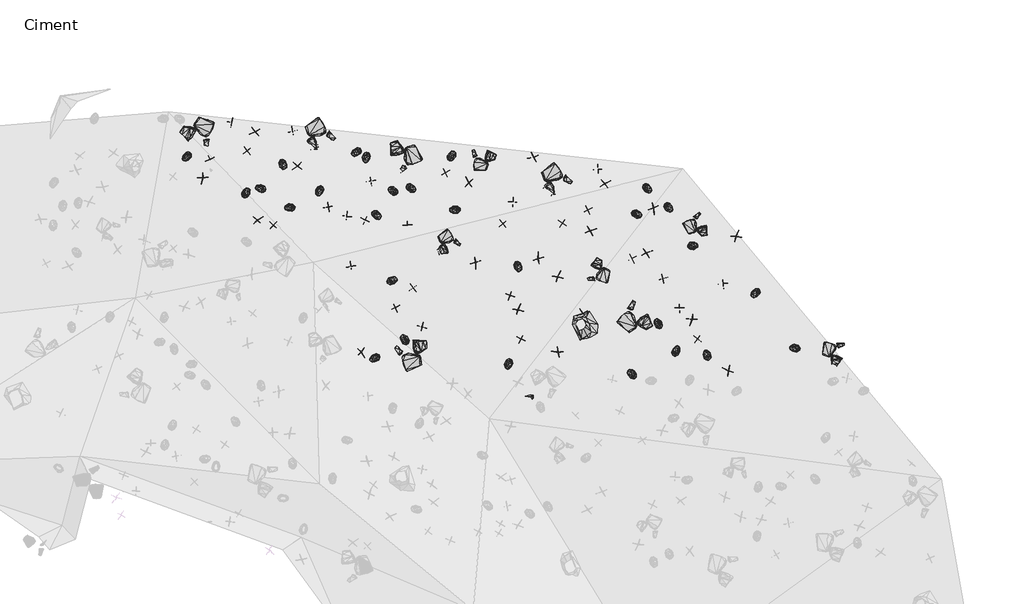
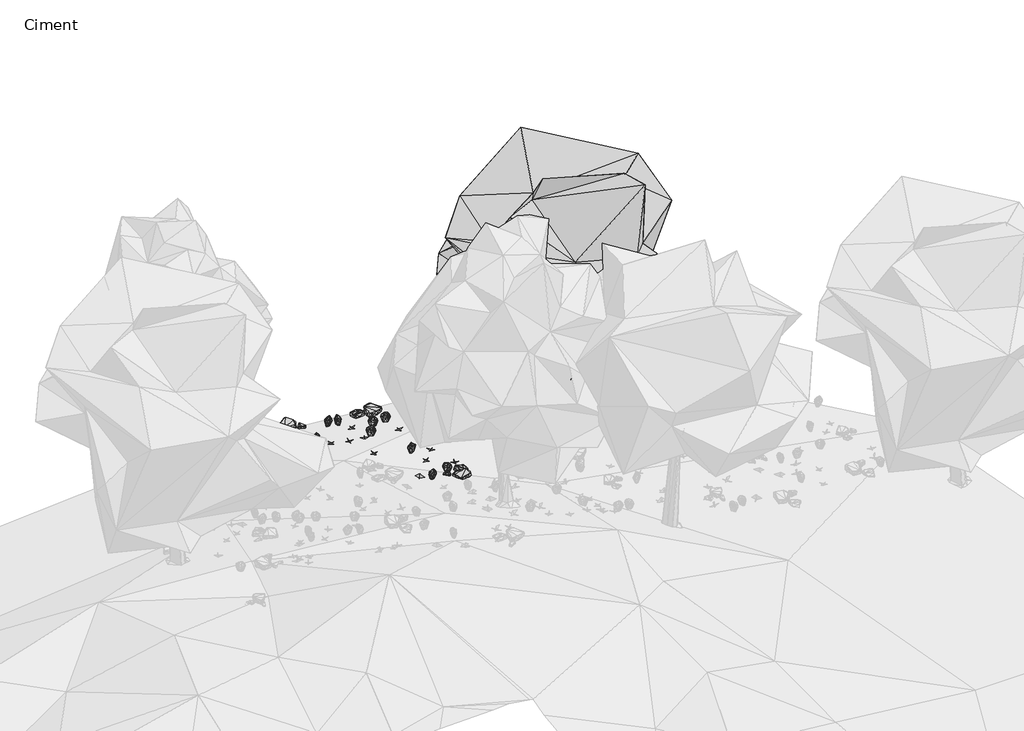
# One storey, part 30 of 30: 87 geographic elements.
"""IFC4 building model written with IfcOpenShell, lengths in millimetres."""

from ifc_helpers import new_model, si_unit, origin, place, context, project, spatial, transform, mapped, element, save
from components import enscape_assetdefinition_bush_025_fern_enscape_5718bf32, enscape_assetdefinition_bush_054_plant_09_version_2_enscape_7b546a12, enscape_assetdefinition_bush_062_plant_09_version_3_enscape_ccf8c8eb, enscape_assetdefinition_deciduous_tree_029_elm_enscape_e4c49baf, enscape_assetdefinition_stone_013_group_enscape_516da325, enscape_assetdefinition_stone_013_group_enscape_db9b3e91

model = new_model("IFC4")

# Units and contexts
model_context = context("Model", 3, world=origin())
ifc_project = project(units=[si_unit("LENGTHUNIT", "METRE", prefix="MILLI")], contexts=[model_context])

# Site, building, storey
site = spatial("IfcSite", under=ifc_project)
building = spatial("IfcBuilding", under=site)
storey = spatial("IfcBuildingStorey", under=building, Name="Ciment", Elevation=-1500.0)

# Geographic elements
placement = place(None, origin())
enscape_assetdefinition_bush_025_fern_enscape_shape = enscape_assetdefinition_bush_025_fern_enscape_5718bf32(model_context)
element("IfcGeographicElement", 1, ObjectType="Enscape AssetDefinition - Bush 025 Fern : Enscape AssetDefinition - Bush 025 Fern", at=placement, inside=storey, context=model_context, shape_type="MappedRepresentation", body=[
    mapped(enscape_assetdefinition_bush_025_fern_enscape_shape, transform((13392.3625946, 18474.9679565, -2123.7223148), x_axis=(0.8792148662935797, 0.4764254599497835, 0.0), y_axis=(-0.4764254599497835, 0.8792148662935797, 0.0), z_axis=(0.0, 0.0, 1.0))),
])
element("IfcGeographicElement", 2, ObjectType="Enscape AssetDefinition - Bush 025 Fern : Enscape AssetDefinition - Bush 025 Fern", at=placement, inside=storey, context=model_context, shape_type="MappedRepresentation", body=[
    mapped(enscape_assetdefinition_bush_025_fern_enscape_shape, transform((20630.4950714, 16685.1425171, -2606.4195633), x_axis=(0.27919322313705, 0.9602349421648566, 0.0), y_axis=(-0.9602349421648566, 0.27919322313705, 0.0), z_axis=(0.0, 0.0, 1.0))),
])
element("IfcGeographicElement", 3, ObjectType="Enscape AssetDefinition - Bush 025 Fern : Enscape AssetDefinition - Bush 025 Fern", at=placement, inside=storey, context=model_context, shape_type="MappedRepresentation", body=[
    mapped(enscape_assetdefinition_bush_025_fern_enscape_shape, transform((19497.045517, 16099.4663239, -2448.1201172), x_axis=(-0.8001108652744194, 0.5998521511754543, 0.0), y_axis=(-0.5998521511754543, -0.8001108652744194, 0.0), z_axis=(0.0, 0.0, 1.0))),
])
element("IfcGeographicElement", 4, ObjectType="Enscape AssetDefinition - Bush 025 Fern : Enscape AssetDefinition - Bush 025 Fern", at=placement, inside=storey, context=model_context, shape_type="MappedRepresentation", body=[
    mapped(enscape_assetdefinition_bush_025_fern_enscape_shape, transform((20167.7799225, 17383.6898804, -2618.180275), x_axis=(-0.6018318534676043, 0.7986228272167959, 0.0), y_axis=(-0.7986228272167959, -0.6018318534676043, 0.0), z_axis=(0.0, 0.0, 1.0))),
])
element("IfcGeographicElement", 5, ObjectType="Enscape AssetDefinition - Bush 025 Fern : Enscape AssetDefinition - Bush 025 Fern", at=placement, inside=storey, context=model_context, shape_type="MappedRepresentation", body=[
    mapped(enscape_assetdefinition_bush_025_fern_enscape_shape, transform((10766.79039, 20341.3772583, -2388.8020515), x_axis=(-0.9917992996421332, -0.12780512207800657, 0.0), y_axis=(0.12780512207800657, -0.9917992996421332, 0.0), z_axis=(0.0, 0.0, 1.0))),
])
element("IfcGeographicElement", 6, ObjectType="Enscape AssetDefinition - Bush 025 Fern : Enscape AssetDefinition - Bush 025 Fern", at=placement, inside=storey, context=model_context, shape_type="MappedRepresentation", body=[
    mapped(enscape_assetdefinition_bush_025_fern_enscape_shape, transform((10596.7617035, 21427.4692535, -2699.9249458), x_axis=(0.5076293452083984, -0.8615755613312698, 0.0), y_axis=(0.8615755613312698, 0.5076293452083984, 0.0), z_axis=(0.0, 0.0, 1.0))),
])
element("IfcGeographicElement", 7, ObjectType="Enscape AssetDefinition - Bush 025 Fern : Enscape AssetDefinition - Bush 025 Fern", at=placement, inside=storey, context=model_context, shape_type="MappedRepresentation", body=[
    mapped(enscape_assetdefinition_bush_025_fern_enscape_shape, transform((16592.0467377, 18825.5672455, -2420.6457138), x_axis=(0.5107015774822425, -0.859758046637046, 0.0), y_axis=(0.859758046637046, 0.5107015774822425, 0.0), z_axis=(0.0, 0.0, 1.0))),
])
element("IfcGeographicElement", 8, ObjectType="Enscape AssetDefinition - Bush 025 Fern : Enscape AssetDefinition - Bush 025 Fern", at=placement, inside=storey, context=model_context, shape_type="MappedRepresentation", body=[
    mapped(enscape_assetdefinition_bush_025_fern_enscape_shape, transform((23649.7020721, 16754.2572021, -2906.6262245), x_axis=(-0.9999071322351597, 0.013628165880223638, 0.0), y_axis=(-0.013628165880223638, -0.9999071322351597, 0.0), z_axis=(0.0, 0.0, 1.0))),
])
element("IfcGeographicElement", 9, ObjectType="Enscape AssetDefinition - Bush 025 Fern : Enscape AssetDefinition - Bush 025 Fern", at=placement, inside=storey, context=model_context, shape_type="MappedRepresentation", body=[
    mapped(enscape_assetdefinition_bush_025_fern_enscape_shape, transform((14909.1863632, 21660.0494385, -2907.4184895), x_axis=(0.3970330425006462, 0.9178043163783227, 0.0), y_axis=(-0.9178043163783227, 0.3970330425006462, 0.0), z_axis=(0.0, 0.0, 1.0))),
])
element("IfcGeographicElement", 10, ObjectType="Enscape AssetDefinition - Bush 025 Fern : Enscape AssetDefinition - Bush 025 Fern", at=placement, inside=storey, context=model_context, shape_type="MappedRepresentation", body=[
    mapped(enscape_assetdefinition_bush_025_fern_enscape_shape, transform((12934.2327118, 16496.7880249, -1712.9496336), x_axis=(-0.8035142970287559, -0.5952854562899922, 0.0), y_axis=(0.5952854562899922, -0.8035142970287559, 0.0), z_axis=(0.0, 0.0, 1.0))),
])
element("IfcGeographicElement", 11, ObjectType="Enscape AssetDefinition - Bush 025 Fern : Enscape AssetDefinition - Bush 025 Fern", at=placement, inside=storey, context=model_context, shape_type="MappedRepresentation", body=[
    mapped(enscape_assetdefinition_bush_025_fern_enscape_shape, transform((12463.4838104, 21746.9806671, -2853.53899), x_axis=(-0.7232601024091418, -0.6905757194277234, 0.0), y_axis=(0.6905757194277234, -0.7232601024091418, 0.0), z_axis=(0.0, 0.0, 1.0))),
])
element("IfcGeographicElement", 12, ObjectType="Enscape AssetDefinition - Bush 025 Fern : Enscape AssetDefinition - Bush 025 Fern", at=placement, inside=storey, context=model_context, shape_type="MappedRepresentation", body=[
    mapped(enscape_assetdefinition_bush_025_fern_enscape_shape, transform((21417.8676605, 16581.8080902, -2674.8232841), x_axis=(-0.440436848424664, 0.8977835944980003, 0.0), y_axis=(-0.8977835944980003, -0.440436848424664, 0.0), z_axis=(0.0, 0.0, 1.0))),
])
element("IfcGeographicElement", 13, ObjectType="Enscape AssetDefinition - Bush 025 Fern : Enscape AssetDefinition - Bush 025 Fern", at=placement, inside=storey, context=model_context, shape_type="MappedRepresentation", body=[
    mapped(enscape_assetdefinition_bush_025_fern_enscape_shape, transform((14974.7409821, 20283.5273743, -2508.2426071), x_axis=(-0.9718867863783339, -0.2354486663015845, 0.0), y_axis=(0.2354486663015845, -0.9718867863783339, 0.0), z_axis=(0.0, 0.0, 1.0))),
])
element("IfcGeographicElement", 14, ObjectType="Enscape AssetDefinition - Bush 025 Fern : Enscape AssetDefinition - Bush 025 Fern", at=placement, inside=storey, context=model_context, shape_type="MappedRepresentation", body=[
    mapped(enscape_assetdefinition_bush_025_fern_enscape_shape, transform((11528.4557343, 20756.8721771, -2534.6050262), x_axis=(-0.2908869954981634, -0.9567574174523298, 0.0), y_axis=(0.9567574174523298, -0.2908869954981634, 0.0), z_axis=(0.0, 0.0, 1.0))),
])
element("IfcGeographicElement", 15, ObjectType="Enscape AssetDefinition - Bush 025 Fern : Enscape AssetDefinition - Bush 025 Fern", at=placement, inside=storey, context=model_context, shape_type="MappedRepresentation", body=[
    mapped(enscape_assetdefinition_bush_025_fern_enscape_shape, transform((16345.8995819, 16342.0028687, -2169.2008972), x_axis=(-0.21811819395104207, -0.9759223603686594, 0.0), y_axis=(0.9759223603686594, -0.21811819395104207, 0.0), z_axis=(0.0, 0.0, 1.0))),
])
element("IfcGeographicElement", 16, ObjectType="Enscape AssetDefinition - Bush 025 Fern : Enscape AssetDefinition - Bush 025 Fern", at=placement, inside=storey, context=model_context, shape_type="MappedRepresentation", body=[
    mapped(enscape_assetdefinition_bush_025_fern_enscape_shape, transform((13869.7299957, 20823.1391907, -2629.7626495), x_axis=(0.9157221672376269, -0.4018120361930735, 0.0), y_axis=(0.4018120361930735, 0.9157221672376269, 0.0), z_axis=(0.0, 0.0, 1.0))),
])
element("IfcGeographicElement", 17, ObjectType="Enscape AssetDefinition - Bush 025 Fern : Enscape AssetDefinition - Bush 025 Fern", at=placement, inside=storey, context=model_context, shape_type="MappedRepresentation", body=[
    mapped(enscape_assetdefinition_bush_025_fern_enscape_shape, transform((9663.271904, 20715.9919739, -2462.2688293), x_axis=(0.39921825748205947, 0.9168559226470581, 0.0), y_axis=(-0.9168559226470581, 0.39921825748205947, 0.0), z_axis=(0.0, 0.0, 1.0))),
])
element("IfcGeographicElement", 18, ObjectType="Enscape AssetDefinition - Bush 025 Fern : Enscape AssetDefinition - Bush 025 Fern", at=placement, inside=storey, context=model_context, shape_type="MappedRepresentation", body=[
    mapped(enscape_assetdefinition_bush_025_fern_enscape_shape, transform((13399.731636, 20769.5941925, -2598.9284515), x_axis=(-0.9014158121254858, 0.43295442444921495, 0.0), y_axis=(-0.43295442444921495, -0.9014158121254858, 0.0), z_axis=(0.0, 0.0, 1.0))),
])
element("IfcGeographicElement", 19, ObjectType="Enscape AssetDefinition - Bush 025 Fern : Enscape AssetDefinition - Bush 025 Fern", at=placement, inside=storey, context=model_context, shape_type="MappedRepresentation", body=[
    mapped(enscape_assetdefinition_bush_025_fern_enscape_shape, transform((10024.4197845, 20826.6887665, -2506.2382221), x_axis=(-0.9886972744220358, 0.14992564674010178, 0.0), y_axis=(-0.14992564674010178, -0.9886972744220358, 0.0), z_axis=(0.0, 0.0, 1.0))),
])
element("IfcGeographicElement", 20, ObjectType="Enscape AssetDefinition - Bush 025 Fern : Enscape AssetDefinition - Bush 025 Fern", at=placement, inside=storey, context=model_context, shape_type="MappedRepresentation", body=[
    mapped(enscape_assetdefinition_bush_025_fern_enscape_shape, transform((22642.8394318, 18150.9189606, -2922.1673012), x_axis=(-0.565195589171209, -0.8249569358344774, 0.0), y_axis=(0.8249569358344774, -0.565195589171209, 0.0), z_axis=(0.0, 0.0, 1.0))),
])
element("IfcGeographicElement", 21, ObjectType="Enscape AssetDefinition - Bush 025 Fern : Enscape AssetDefinition - Bush 025 Fern", at=placement, inside=storey, context=model_context, shape_type="MappedRepresentation", body=[
    mapped(enscape_assetdefinition_bush_025_fern_enscape_shape, transform((20432.2490692, 20332.6568604, -2884.2184544), x_axis=(0.7055520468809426, -0.7086581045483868, 0.0), y_axis=(0.7086581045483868, 0.7055520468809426, 0.0), z_axis=(0.0, 0.0, 1.0))),
])
element("IfcGeographicElement", 22, ObjectType="Enscape AssetDefinition - Bush 025 Fern : Enscape AssetDefinition - Bush 025 Fern", at=placement, inside=storey, context=model_context, shape_type="MappedRepresentation", body=[
    mapped(enscape_assetdefinition_bush_025_fern_enscape_shape, transform((19891.0732269, 20820.8999634, -2878.8294792), x_axis=(0.7493469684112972, -0.6621775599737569, 0.0), y_axis=(0.6621775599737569, 0.7493469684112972, 0.0), z_axis=(0.0, 0.0, 1.0))),
])
element("IfcGeographicElement", 23, ObjectType="Enscape AssetDefinition - Bush 025 Fern : Enscape AssetDefinition - Bush 025 Fern", at=placement, inside=storey, context=model_context, shape_type="MappedRepresentation", body=[
    mapped(enscape_assetdefinition_bush_025_fern_enscape_shape, transform((21059.4921112, 19357.831955, -2866.0039902), x_axis=(0.9669791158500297, 0.25485562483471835, 0.0), y_axis=(-0.25485562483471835, 0.9669791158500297, 0.0), z_axis=(0.0, 0.0, 1.0))),
])
element("IfcGeographicElement", 24, ObjectType="Enscape AssetDefinition - Bush 025 Fern : Enscape AssetDefinition - Bush 025 Fern", at=placement, inside=storey, context=model_context, shape_type="MappedRepresentation", body=[
    mapped(enscape_assetdefinition_bush_025_fern_enscape_shape, transform((8139.8220062, 21635.2519989, -2729.3915749), x_axis=(-0.5573406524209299, -0.8302839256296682, 0.0), y_axis=(0.8302839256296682, -0.5573406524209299, 0.0), z_axis=(0.0, 0.0, 1.0))),
])
element("IfcGeographicElement", 25, ObjectType="Enscape AssetDefinition - Bush 025 Fern : Enscape AssetDefinition - Bush 025 Fern", at=placement, inside=storey, context=model_context, shape_type="MappedRepresentation", body=[
    mapped(enscape_assetdefinition_bush_025_fern_enscape_shape, transform((13702.8903961, 16976.2229919, -2009.9039078), x_axis=(-0.6321649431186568, 0.7748338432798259, 0.0), y_axis=(-0.7748338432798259, -0.6321649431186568, 0.0), z_axis=(0.0, 0.0, 1.0))),
])
element("IfcGeographicElement", 26, ObjectType="Enscape AssetDefinition - Bush 025 Fern : Enscape AssetDefinition - Bush 025 Fern", at=placement, inside=storey, context=model_context, shape_type="MappedRepresentation", body=[
    mapped(enscape_assetdefinition_bush_025_fern_enscape_shape, transform((12991.3043976, 20137.1364594, -2401.3171196), x_axis=(0.8446381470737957, -0.535337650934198, 0.0), y_axis=(0.535337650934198, 0.8446381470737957, 0.0), z_axis=(0.0, 0.0, 1.0))),
])
element("IfcGeographicElement", 27, ObjectType="Enscape AssetDefinition - Bush 025 Fern : Enscape AssetDefinition - Bush 025 Fern", at=placement, inside=storey, context=model_context, shape_type="MappedRepresentation", body=[
    mapped(enscape_assetdefinition_bush_025_fern_enscape_shape, transform((12719.0876007, 21608.8638306, -2821.5537071), x_axis=(-0.11056601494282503, -0.9938687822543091, 0.0), y_axis=(0.9938687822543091, -0.11056601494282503, 0.0), z_axis=(0.0, 0.0, 1.0))),
])
element("IfcGeographicElement", 28, ObjectType="Enscape AssetDefinition - Bush 025 Fern : Enscape AssetDefinition - Bush 025 Fern", at=placement, inside=storey, context=model_context, shape_type="MappedRepresentation", body=[
    mapped(enscape_assetdefinition_bush_025_fern_enscape_shape, transform((19626.3160706, 20160.8009338, -2795.5327034), x_axis=(0.9563267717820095, -0.29229968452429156, 0.0), y_axis=(0.29229968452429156, 0.9563267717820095, 0.0), z_axis=(0.0, 0.0, 1.0))),
])
enscape_assetdefinition_bush_054_plant_09_version_2_enscape_shape = enscape_assetdefinition_bush_054_plant_09_version_2_enscape_7b546a12(model_context)
element("IfcGeographicElement", 29, ObjectType="Enscape AssetDefinition - Bush 054 Plant 09, Version 2 : Enscape AssetDefinition - Bush 054 Plant 09, Version 2", at=placement, inside=storey, context=model_context, shape_type="MappedRepresentation", body=[
    mapped(enscape_assetdefinition_bush_054_plant_09_version_2_enscape_shape, transform((14742.7568436, 21230.1502228, -2776.6985893), x_axis=(-0.8575869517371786, -0.5143390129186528, 0.0), y_axis=(0.5143390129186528, -0.8575869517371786, 0.0), z_axis=(0.0, 0.0, 1.0))),
])
element("IfcGeographicElement", 30, ObjectType="Enscape AssetDefinition - Bush 054 Plant 09, Version 2 : Enscape AssetDefinition - Bush 054 Plant 09, Version 2", at=placement, inside=storey, context=model_context, shape_type="MappedRepresentation", body=[
    mapped(enscape_assetdefinition_bush_054_plant_09_version_2_enscape_shape, transform((18377.1419525, 20280.3001404, -2703.4704685), x_axis=(-0.8824253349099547, -0.4704524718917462, 0.0), y_axis=(0.4704524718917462, -0.8824253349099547, 0.0), z_axis=(0.0, 0.0, 1.0))),
])
element("IfcGeographicElement", 31, ObjectType="Enscape AssetDefinition - Bush 054 Plant 09, Version 2 : Enscape AssetDefinition - Bush 054 Plant 09, Version 2", at=placement, inside=storey, context=model_context, shape_type="MappedRepresentation", body=[
    mapped(enscape_assetdefinition_bush_054_plant_09_version_2_enscape_shape, transform((9686.6970062, 21778.7971497, -2772.8676796), x_axis=(0.7611304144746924, 0.6485988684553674, 0.0), y_axis=(-0.6485988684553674, 0.7611304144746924, 0.0), z_axis=(0.0, 0.0, 1.0))),
])
element("IfcGeographicElement", 32, ObjectType="Enscape AssetDefinition - Bush 054 Plant 09, Version 2 : Enscape AssetDefinition - Bush 054 Plant 09, Version 2", at=placement, inside=storey, context=model_context, shape_type="MappedRepresentation", body=[
    mapped(enscape_assetdefinition_bush_054_plant_09_version_2_enscape_shape, transform((19500.8869171, 19040.0733948, -2688.0488396), x_axis=(-0.8654968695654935, -0.5009143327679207, 0.0), y_axis=(0.5009143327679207, -0.8654968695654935, 0.0), z_axis=(0.0, 0.0, 1.0))),
])
element("IfcGeographicElement", 33, ObjectType="Enscape AssetDefinition - Bush 054 Plant 09, Version 2 : Enscape AssetDefinition - Bush 054 Plant 09, Version 2", at=placement, inside=storey, context=model_context, shape_type="MappedRepresentation", body=[
    mapped(enscape_assetdefinition_bush_054_plant_09_version_2_enscape_shape, transform((20718.1568146, 17773.2582092, -2703.6147118), x_axis=(-0.08637403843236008, 0.9962627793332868, 0.0), y_axis=(-0.9962627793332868, -0.08637403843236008, 0.0), z_axis=(0.0, 0.0, 1.0))),
])
element("IfcGeographicElement", 34, ObjectType="Enscape AssetDefinition - Bush 054 Plant 09, Version 2 : Enscape AssetDefinition - Bush 054 Plant 09, Version 2", at=placement, inside=storey, context=model_context, shape_type="MappedRepresentation", body=[
    mapped(enscape_assetdefinition_bush_054_plant_09_version_2_enscape_shape, transform((17730.1845551, 19934.0305328, -2617.8078651), x_axis=(0.513017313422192, 0.8583782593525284, 0.0), y_axis=(-0.8583782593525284, 0.513017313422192, 0.0), z_axis=(0.0, 0.0, 1.0))),
])
element("IfcGeographicElement", 35, ObjectType="Enscape AssetDefinition - Bush 054 Plant 09, Version 2 : Enscape AssetDefinition - Bush 054 Plant 09, Version 2", at=placement, inside=storey, context=model_context, shape_type="MappedRepresentation", body=[
    mapped(enscape_assetdefinition_bush_054_plant_09_version_2_enscape_shape, transform((12697.0729828, 20012.6590729, -2355.4971218), x_axis=(0.3602259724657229, 0.9328650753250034, 0.0), y_axis=(-0.9328650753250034, 0.3602259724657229, 0.0), z_axis=(0.0, 0.0, 1.0))),
])
element("IfcGeographicElement", 36, ObjectType="Enscape AssetDefinition - Bush 054 Plant 09, Version 2 : Enscape AssetDefinition - Bush 054 Plant 09, Version 2", at=placement, inside=storey, context=model_context, shape_type="MappedRepresentation", body=[
    mapped(enscape_assetdefinition_bush_054_plant_09_version_2_enscape_shape, transform((9287.1952057, 22504.7912598, -2971.5769291), x_axis=(0.9923629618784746, -0.12335214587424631, 0.0), y_axis=(0.12335214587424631, 0.9923629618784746, 0.0), z_axis=(0.0, 0.0, 1.0))),
])
element("IfcGeographicElement", 37, ObjectType="Enscape AssetDefinition - Bush 054 Plant 09, Version 2 : Enscape AssetDefinition - Bush 054 Plant 09, Version 2", at=placement, inside=storey, context=model_context, shape_type="MappedRepresentation", body=[
    mapped(enscape_assetdefinition_bush_054_plant_09_version_2_enscape_shape, transform((18633.7947845, 21307.2109222, -2925.2040386), x_axis=(0.9940596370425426, 0.10883674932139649, 0.0), y_axis=(-0.10883674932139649, 0.9940596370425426, 0.0), z_axis=(0.0, 0.0, 1.0))),
])
element("IfcGeographicElement", 38, ObjectType="Enscape AssetDefinition - Bush 054 Plant 09, Version 2 : Enscape AssetDefinition - Bush 054 Plant 09, Version 2", at=placement, inside=storey, context=model_context, shape_type="MappedRepresentation", body=[
    mapped(enscape_assetdefinition_bush_054_plant_09_version_2_enscape_shape, transform((13780.2858353, 19885.0593567, -2353.3856869), x_axis=(-0.0815967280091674, 0.9966654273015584, 0.0), y_axis=(-0.9966654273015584, -0.0815967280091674, 0.0), z_axis=(0.0, 0.0, 1.0))),
])
element("IfcGeographicElement", 39, ObjectType="Enscape AssetDefinition - Bush 054 Plant 09, Version 2 : Enscape AssetDefinition - Bush 054 Plant 09, Version 2", at=placement, inside=storey, context=model_context, shape_type="MappedRepresentation", body=[
    mapped(enscape_assetdefinition_bush_054_plant_09_version_2_enscape_shape, transform((16209.4249725, 19918.548584, -2490.7505512), x_axis=(0.7422522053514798, 0.6701206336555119, 0.0), y_axis=(-0.6701206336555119, 0.7422522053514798, 0.0), z_axis=(0.0, 0.0, 1.0))),
])
element("IfcGeographicElement", 40, ObjectType="Enscape AssetDefinition - Bush 054 Plant 09, Version 2 : Enscape AssetDefinition - Bush 054 Plant 09, Version 2", at=placement, inside=storey, context=model_context, shape_type="MappedRepresentation", body=[
    mapped(enscape_assetdefinition_bush_054_plant_09_version_2_enscape_shape, transform((16674.1847992, 16979.3186188, -2255.6247711), x_axis=(0.37217634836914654, 0.9281620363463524, 0.0), y_axis=(-0.9281620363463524, 0.37217634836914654, 0.0), z_axis=(0.0, 0.0, 1.0))),
])
element("IfcGeographicElement", 41, ObjectType="Enscape AssetDefinition - Bush 054 Plant 09, Version 2 : Enscape AssetDefinition - Bush 054 Plant 09, Version 2", at=placement, inside=storey, context=model_context, shape_type="MappedRepresentation", body=[
    mapped(enscape_assetdefinition_bush_054_plant_09_version_2_enscape_shape, transform((14143.7091827, 17299.1142273, -2076.3633251), x_axis=(-0.19731652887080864, -0.9803398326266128, 0.0), y_axis=(0.9803398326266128, -0.19731652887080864, 0.0), z_axis=(0.0, 0.0, 1.0))),
])
element("IfcGeographicElement", 42, ObjectType="Enscape AssetDefinition - Bush 054 Plant 09, Version 2 : Enscape AssetDefinition - Bush 054 Plant 09, Version 2", at=placement, inside=storey, context=model_context, shape_type="MappedRepresentation", body=[
    mapped(enscape_assetdefinition_bush_054_plant_09_version_2_enscape_shape, transform((21176.5117645, 16983.5681915, -2684.00383), x_axis=(0.5518956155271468, 0.8339132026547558, 0.0), y_axis=(-0.8339132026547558, 0.5518956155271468, 0.0), z_axis=(0.0, 0.0, 1.0))),
])
element("IfcGeographicElement", 43, ObjectType="Enscape AssetDefinition - Bush 054 Plant 09, Version 2 : Enscape AssetDefinition - Bush 054 Plant 09, Version 2", at=placement, inside=storey, context=model_context, shape_type="MappedRepresentation", body=[
    mapped(enscape_assetdefinition_bush_054_plant_09_version_2_enscape_shape, transform((20291.7289734, 18528.2707214, -2723.5155106), x_axis=(-0.9518314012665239, -0.3066218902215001, 0.0), y_axis=(0.3066218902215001, -0.9518314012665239, 0.0), z_axis=(0.0, 0.0, 1.0))),
])
element("IfcGeographicElement", 44, ObjectType="Enscape AssetDefinition - Bush 054 Plant 09, Version 2 : Enscape AssetDefinition - Bush 054 Plant 09, Version 2", at=placement, inside=storey, context=model_context, shape_type="MappedRepresentation", body=[
    mapped(enscape_assetdefinition_bush_054_plant_09_version_2_enscape_shape, transform((13469.6798325, 17784.4562531, -2065.8519268), x_axis=(-0.4697372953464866, 0.8828062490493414, 0.0), y_axis=(-0.8828062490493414, -0.4697372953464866, 0.0), z_axis=(0.0, 0.0, 1.0))),
])
element("IfcGeographicElement", 45, ObjectType="Enscape AssetDefinition - Bush 054 Plant 09, Version 2 : Enscape AssetDefinition - Bush 054 Plant 09, Version 2", at=placement, inside=storey, context=model_context, shape_type="MappedRepresentation", body=[
    mapped(enscape_assetdefinition_bush_054_plant_09_version_2_enscape_shape, transform((12327.3420334, 18844.4404602, -2070.132494), x_axis=(0.21782571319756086, -0.9759876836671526, 0.0), y_axis=(0.9759876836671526, 0.21782571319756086, 0.0), z_axis=(0.0, 0.0, 1.0))),
])
element("IfcGeographicElement", 46, ObjectType="Enscape AssetDefinition - Bush 054 Plant 09, Version 2 : Enscape AssetDefinition - Bush 054 Plant 09, Version 2", at=placement, inside=storey, context=model_context, shape_type="MappedRepresentation", body=[
    mapped(enscape_assetdefinition_bush_054_plant_09_version_2_enscape_shape, transform((21832.8876495, 18390.0241852, -2862.6205921), x_axis=(-0.1434202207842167, 0.9896618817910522, 0.0), y_axis=(-0.9896618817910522, -0.1434202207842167, 0.0), z_axis=(0.0, 0.0, 1.0))),
])
element("IfcGeographicElement", 47, ObjectType="Enscape AssetDefinition - Bush 054 Plant 09, Version 2 : Enscape AssetDefinition - Bush 054 Plant 09, Version 2", at=placement, inside=storey, context=model_context, shape_type="MappedRepresentation", body=[
    mapped(enscape_assetdefinition_bush_054_plant_09_version_2_enscape_shape, transform((11754.6443939, 20345.8843231, -2422.1158028), x_axis=(0.9777896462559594, 0.20958866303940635, 0.0), y_axis=(-0.20958866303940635, 0.9777896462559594, 0.0), z_axis=(0.0, 0.0, 1.0))),
])
element("IfcGeographicElement", 48, ObjectType="Enscape AssetDefinition - Bush 054 Plant 09, Version 2 : Enscape AssetDefinition - Bush 054 Plant 09, Version 2", at=placement, inside=storey, context=model_context, shape_type="MappedRepresentation", body=[
    mapped(enscape_assetdefinition_bush_054_plant_09_version_2_enscape_shape, transform((10842.4243927, 22285.2859497, -2957.962513), x_axis=(0.24449396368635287, -0.9696508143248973, 0.0), y_axis=(0.9696508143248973, 0.24449396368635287, 0.0), z_axis=(0.0, 0.0, 1.0))),
])
element("IfcGeographicElement", 49, ObjectType="Enscape AssetDefinition - Bush 054 Plant 09, Version 2 : Enscape AssetDefinition - Bush 054 Plant 09, Version 2", at=placement, inside=storey, context=model_context, shape_type="MappedRepresentation", body=[
    mapped(enscape_assetdefinition_bush_054_plant_09_version_2_enscape_shape, transform((16463.9015198, 20476.4060974, -2612.7109528), x_axis=(0.9998709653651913, -0.01606401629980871, 0.0), y_axis=(0.01606401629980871, 0.9998709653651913, 0.0), z_axis=(0.0, 0.0, 1.0))),
])
element("IfcGeographicElement", 50, ObjectType="Enscape AssetDefinition - Bush 054 Plant 09, Version 2 : Enscape AssetDefinition - Bush 054 Plant 09, Version 2", at=placement, inside=storey, context=model_context, shape_type="MappedRepresentation", body=[
    mapped(enscape_assetdefinition_bush_054_plant_09_version_2_enscape_shape, transform((8743.0362701, 21562.8395081, -2687.2386932), x_axis=(-0.48237992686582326, 0.8759621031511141, 0.0), y_axis=(-0.8759621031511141, -0.48237992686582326, 0.0), z_axis=(0.0, 0.0, 1.0))),
])
element("IfcGeographicElement", 51, ObjectType="Enscape AssetDefinition - Bush 054 Plant 09, Version 2 : Enscape AssetDefinition - Bush 054 Plant 09, Version 2", at=placement, inside=storey, context=model_context, shape_type="MappedRepresentation", body=[
    mapped(enscape_assetdefinition_bush_054_plant_09_version_2_enscape_shape, transform((13919.626236, 18284.8300934, -2149.5814323), x_axis=(0.7735428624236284, 0.6337439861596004, 0.0), y_axis=(-0.6337439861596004, 0.7735428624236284, 0.0), z_axis=(0.0, 0.0, 1.0))),
])
element("IfcGeographicElement", 52, ObjectType="Enscape AssetDefinition - Bush 054 Plant 09, Version 2 : Enscape AssetDefinition - Bush 054 Plant 09, Version 2", at=placement, inside=storey, context=model_context, shape_type="MappedRepresentation", body=[
    mapped(enscape_assetdefinition_bush_054_plant_09_version_2_enscape_shape, transform((10346.4260101, 19887.6304626, -2251.4462471), x_axis=(0.7632827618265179, -0.6460645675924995, 0.0), y_axis=(0.6460645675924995, 0.7632827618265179, 0.0), z_axis=(0.0, 0.0, 1.0))),
])
element("IfcGeographicElement", 53, ObjectType="Enscape AssetDefinition - Bush 054 Plant 09, Version 2 : Enscape AssetDefinition - Bush 054 Plant 09, Version 2", at=placement, inside=storey, context=model_context, shape_type="MappedRepresentation", body=[
    mapped(enscape_assetdefinition_bush_054_plant_09_version_2_enscape_shape, transform((12232.213974, 20120.5673218, -2371.8981743), x_axis=(-0.9971453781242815, 0.07550559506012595, 0.0), y_axis=(-0.07550559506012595, -0.9971453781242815, 0.0), z_axis=(0.0, 0.0, 1.0))),
])
element("IfcGeographicElement", 54, ObjectType="Enscape AssetDefinition - Bush 054 Plant 09, Version 2 : Enscape AssetDefinition - Bush 054 Plant 09, Version 2", at=placement, inside=storey, context=model_context, shape_type="MappedRepresentation", body=[
    mapped(enscape_assetdefinition_bush_054_plant_09_version_2_enscape_shape, transform((12846.8084335, 21012.6457214, -2651.8743038), x_axis=(-0.2223931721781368, 0.9749570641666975, 0.0), y_axis=(-0.9749570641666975, -0.2223931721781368, 0.0), z_axis=(0.0, 0.0, 1.0))),
])
element("IfcGeographicElement", 55, ObjectType="Enscape AssetDefinition - Bush 054 Plant 09, Version 2 : Enscape AssetDefinition - Bush 054 Plant 09, Version 2", at=placement, inside=storey, context=model_context, shape_type="MappedRepresentation", body=[
    mapped(enscape_assetdefinition_bush_054_plant_09_version_2_enscape_shape, transform((16396.0342407, 18090.9385681, -2336.0929489), x_axis=(0.2917674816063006, 0.9564892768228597, 0.0), y_axis=(-0.9564892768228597, 0.2917674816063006, 0.0), z_axis=(0.0, 0.0, 1.0))),
])
enscape_assetdefinition_bush_062_plant_09_version_3_enscape_shape = enscape_assetdefinition_bush_062_plant_09_version_3_enscape_ccf8c8eb(model_context)
element("IfcGeographicElement", 56, ObjectType="Enscape AssetDefinition - Bush 062 Plant 09, Version 3 : Enscape AssetDefinition - Bush 062 Plant 09, Version 3", at=placement, inside=storey, context=model_context, shape_type="MappedRepresentation", body=[
    mapped(enscape_assetdefinition_bush_062_plant_09_version_3_enscape_shape, transform((18816.7705536, 20954.1721344, -2828.2086849), x_axis=(0.7249353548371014, -0.6888169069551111, 0.0), y_axis=(0.6888169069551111, 0.7249353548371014, 0.0), z_axis=(0.0, 0.0, 1.0))),
])
element("IfcGeographicElement", 57, ObjectType="Enscape AssetDefinition - Bush 062 Plant 09, Version 3 : Enscape AssetDefinition - Bush 062 Plant 09, Version 3", at=placement, inside=storey, context=model_context, shape_type="MappedRepresentation", body=[
    mapped(enscape_assetdefinition_bush_062_plant_09_version_3_enscape_shape, transform((20053.194046, 20315.1378632, -2845.8080292), x_axis=(-0.8783887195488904, -0.4779469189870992, 0.0), y_axis=(0.4779469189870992, -0.8783887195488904, 0.0), z_axis=(0.0, 0.0, 1.0))),
])
element("IfcGeographicElement", 58, ObjectType="Enscape AssetDefinition - Bush 062 Plant 09, Version 3 : Enscape AssetDefinition - Bush 062 Plant 09, Version 3", at=placement, inside=storey, context=model_context, shape_type="MappedRepresentation", body=[
    mapped(enscape_assetdefinition_bush_062_plant_09_version_3_enscape_shape, transform((9884.0694427, 22259.5863342, -2919.4259644), x_axis=(-0.7066082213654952, 0.7076049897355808, 0.0), y_axis=(-0.7076049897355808, -0.7066082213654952, 0.0), z_axis=(0.0, 0.0, 1.0))),
])
element("IfcGeographicElement", 59, ObjectType="Enscape AssetDefinition - Bush 062 Plant 09, Version 3 : Enscape AssetDefinition - Bush 062 Plant 09, Version 3", at=placement, inside=storey, context=model_context, shape_type="MappedRepresentation", body=[
    mapped(enscape_assetdefinition_bush_062_plant_09_version_3_enscape_shape, transform((21948.431015, 16176.1894226, -2693.5455799), x_axis=(0.08335090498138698, 0.9965202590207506, 0.0), y_axis=(-0.9965202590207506, 0.08335090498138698, 0.0), z_axis=(0.0, 0.0, 1.0))),
])
element("IfcGeographicElement", 60, ObjectType="Enscape AssetDefinition - Bush 062 Plant 09, Version 3 : Enscape AssetDefinition - Bush 062 Plant 09, Version 3", at=placement, inside=storey, context=model_context, shape_type="MappedRepresentation", body=[
    mapped(enscape_assetdefinition_bush_062_plant_09_version_3_enscape_shape, transform((18240.228653, 17625.9403229, -2449.848175), x_axis=(-0.6855659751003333, 0.728010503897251, 0.0), y_axis=(-0.728010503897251, -0.6855659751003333, 0.0), z_axis=(0.0, 0.0, 1.0))),
])
element("IfcGeographicElement", 61, ObjectType="Enscape AssetDefinition - Bush 062 Plant 09, Version 3 : Enscape AssetDefinition - Bush 062 Plant 09, Version 3", at=placement, inside=storey, context=model_context, shape_type="MappedRepresentation", body=[
    mapped(enscape_assetdefinition_bush_062_plant_09_version_3_enscape_shape, transform((21030.0769806, 17475.8987427, -2709.8240852), x_axis=(-0.998990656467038, -0.04491846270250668, 0.0), y_axis=(0.04491846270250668, -0.998990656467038, 0.0), z_axis=(0.0, 0.0, 1.0))),
])
element("IfcGeographicElement", 62, ObjectType="Enscape AssetDefinition - Bush 062 Plant 09, Version 3 : Enscape AssetDefinition - Bush 062 Plant 09, Version 3", at=placement, inside=storey, context=model_context, shape_type="MappedRepresentation", body=[
    mapped(enscape_assetdefinition_bush_062_plant_09_version_3_enscape_shape, transform((15513.5784149, 18923.034668, -2340.6331539), x_axis=(-0.9197023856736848, -0.39261625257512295, 0.0), y_axis=(0.39261625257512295, -0.9197023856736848, 0.0), z_axis=(0.0, 0.0, 1.0))),
])
element("IfcGeographicElement", 63, ObjectType="Enscape AssetDefinition - Bush 062 Plant 09, Version 3 : Enscape AssetDefinition - Bush 062 Plant 09, Version 3", at=placement, inside=storey, context=model_context, shape_type="MappedRepresentation", body=[
    mapped(enscape_assetdefinition_bush_062_plant_09_version_3_enscape_shape, transform((16981.1306, 21617.4907684, -2962.1267319), x_axis=(-0.5582980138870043, 0.8296404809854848, 0.0), y_axis=(-0.8296404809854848, -0.5582980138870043, 0.0), z_axis=(0.0, 0.0, 1.0))),
])
element("IfcGeographicElement", 64, ObjectType="Enscape AssetDefinition - Bush 062 Plant 09, Version 3 : Enscape AssetDefinition - Bush 062 Plant 09, Version 3", at=placement, inside=storey, context=model_context, shape_type="MappedRepresentation", body=[
    mapped(enscape_assetdefinition_bush_062_plant_09_version_3_enscape_shape, transform((17610.1818085, 18581.8405151, -2482.0642471), x_axis=(0.9981952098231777, -0.060052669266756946, 0.0), y_axis=(0.060052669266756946, 0.9981952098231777, 0.0), z_axis=(0.0, 0.0, 1.0))),
])
element("IfcGeographicElement", 65, ObjectType="Enscape AssetDefinition - Bush 062 Plant 09, Version 3 : Enscape AssetDefinition - Bush 062 Plant 09, Version 3", at=placement, inside=storey, context=model_context, shape_type="MappedRepresentation", body=[
    mapped(enscape_assetdefinition_bush_062_plant_09_version_3_enscape_shape, transform((10965.7115936, 21387.0105743, -2700.0808716), x_axis=(-0.8420802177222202, 0.5393523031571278, 0.0), y_axis=(-0.5393523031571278, -0.8420802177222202, 0.0), z_axis=(0.0, 0.0, 1.0))),
])
element("IfcGeographicElement", 66, ObjectType="Enscape AssetDefinition - Bush 062 Plant 09, Version 3 : Enscape AssetDefinition - Bush 062 Plant 09, Version 3", at=placement, inside=storey, context=model_context, shape_type="MappedRepresentation", body=[
    mapped(enscape_assetdefinition_bush_062_plant_09_version_3_enscape_shape, transform((15331.5114975, 20979.6295166, -2722.735405), x_axis=(0.6388568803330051, 0.7693256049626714, 0.0), y_axis=(-0.7693256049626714, 0.6388568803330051, 0.0), z_axis=(0.0, 0.0, 1.0))),
])
element("IfcGeographicElement", 67, ObjectType="Enscape AssetDefinition - Bush 062 Plant 09, Version 3 : Enscape AssetDefinition - Bush 062 Plant 09, Version 3", at=placement, inside=storey, context=model_context, shape_type="MappedRepresentation", body=[
    mapped(enscape_assetdefinition_bush_062_plant_09_version_3_enscape_shape, transform((16598.3753204, 17740.9191132, -2320.2347755), x_axis=(0.9976032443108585, -0.06919369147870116, 0.0), y_axis=(0.06919369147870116, 0.9976032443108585, 0.0), z_axis=(0.0, 0.0, 1.0))),
])
element("IfcGeographicElement", 68, ObjectType="Enscape AssetDefinition - Bush 062 Plant 09, Version 3 : Enscape AssetDefinition - Bush 062 Plant 09, Version 3", at=placement, inside=storey, context=model_context, shape_type="MappedRepresentation", body=[
    mapped(enscape_assetdefinition_bush_062_plant_09_version_3_enscape_shape, transform((18446.5656281, 19751.6479492, -2660.009861), x_axis=(0.6219279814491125, -0.7830744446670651, 0.0), y_axis=(0.7830744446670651, 0.6219279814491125, 0.0), z_axis=(0.0, 0.0, 1.0))),
])
element("IfcGeographicElement", 69, ObjectType="Enscape AssetDefinition - Bush 062 Plant 09, Version 3 : Enscape AssetDefinition - Bush 062 Plant 09, Version 3", at=placement, inside=storey, context=model_context, shape_type="MappedRepresentation", body=[
    mapped(enscape_assetdefinition_bush_062_plant_09_version_3_enscape_shape, transform((9960.817337, 20022.1138, -2297.6493835), x_axis=(0.8232723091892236, -0.5676466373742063, 0.0), y_axis=(0.5676466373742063, 0.8232723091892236, 0.0), z_axis=(0.0, 0.0, 1.0))),
])
element("IfcGeographicElement", 70, ObjectType="Enscape AssetDefinition - Bush 062 Plant 09, Version 3 : Enscape AssetDefinition - Bush 062 Plant 09, Version 3", at=placement, inside=storey, context=model_context, shape_type="MappedRepresentation", body=[
    mapped(enscape_assetdefinition_bush_062_plant_09_version_3_enscape_shape, transform((17109.0183258, 19047.7046967, -2484.0197563), x_axis=(0.9271170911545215, 0.37477179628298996, 0.0), y_axis=(-0.37477179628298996, 0.9271170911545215, 0.0), z_axis=(0.0, 0.0, 1.0))),
])
element("IfcGeographicElement", 71, ObjectType="Enscape AssetDefinition - Bush 062 Plant 09, Version 3 : Enscape AssetDefinition - Bush 062 Plant 09, Version 3", at=placement, inside=storey, context=model_context, shape_type="MappedRepresentation", body=[
    mapped(enscape_assetdefinition_bush_062_plant_09_version_3_enscape_shape, transform((19881.269455, 19186.9907379, -2737.1296883), x_axis=(0.654945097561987, -0.7556764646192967, 0.0), y_axis=(0.7556764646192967, 0.654945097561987, 0.0), z_axis=(0.0, 0.0, 1.0))),
])
element("IfcGeographicElement", 72, ObjectType="Enscape AssetDefinition - Bush 062 Plant 09, Version 3 : Enscape AssetDefinition - Bush 062 Plant 09, Version 3", at=placement, inside=storey, context=model_context, shape_type="MappedRepresentation", body=[
    mapped(enscape_assetdefinition_bush_062_plant_09_version_3_enscape_shape, transform((22159.7995758, 19612.0529175, -2994.0679073), x_axis=(0.9997559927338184, -0.022089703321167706, 0.0), y_axis=(0.022089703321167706, 0.9997559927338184, 0.0), z_axis=(0.0, 0.0, 1.0))),
])
element("IfcGeographicElement", 73, ObjectType="Enscape AssetDefinition - Bush 062 Plant 09, Version 3 : Enscape AssetDefinition - Bush 062 Plant 09, Version 3", at=placement, inside=storey, context=model_context, shape_type="MappedRepresentation", body=[
    mapped(enscape_assetdefinition_bush_062_plant_09_version_3_enscape_shape, transform((8552.362442, 21082.7331543, -2590.7359123), x_axis=(-0.9862074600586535, -0.16551388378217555, 0.0), y_axis=(0.16551388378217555, -0.9862074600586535, 0.0), z_axis=(0.0, 0.0, 1.0))),
])
element("IfcGeographicElement", 74, ObjectType="Enscape AssetDefinition - Bush 062 Plant 09, Version 3 : Enscape AssetDefinition - Bush 062 Plant 09, Version 3", at=placement, inside=storey, context=model_context, shape_type="MappedRepresentation", body=[
    mapped(enscape_assetdefinition_bush_062_plant_09_version_3_enscape_shape, transform((12603.0025482, 16637.1688843, -1671.1601019), x_axis=(-0.5452851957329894, -0.8382505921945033, 0.0), y_axis=(0.8382505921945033, -0.5452851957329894, 0.0), z_axis=(0.0, 0.0, 1.0))),
])
element("IfcGeographicElement", 75, ObjectType="Enscape AssetDefinition - Bush 062 Plant 09, Version 3 : Enscape AssetDefinition - Bush 062 Plant 09, Version 3", at=placement, inside=storey, context=model_context, shape_type="MappedRepresentation", body=[
    mapped(enscape_assetdefinition_bush_062_plant_09_version_3_enscape_shape, transform((17602.7965546, 16649.438858, -2308.1059456), x_axis=(-0.25094580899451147, 0.9680011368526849, 0.0), y_axis=(-0.9680011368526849, -0.25094580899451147, 0.0), z_axis=(0.0, 0.0, 1.0))),
])
enscape_assetdefinition_deciduous_tree_029_elm_enscape_shape = enscape_assetdefinition_deciduous_tree_029_elm_enscape_e4c49baf(model_context)
element("IfcGeographicElement", 76, ObjectType="Enscape AssetDefinition - Deciduous Tree 029 Elm : Enscape AssetDefinition - Deciduous Tree 029 Elm", at=placement, inside=storey, context=model_context, shape_type="MappedRepresentation", body=[
    mapped(enscape_assetdefinition_deciduous_tree_029_elm_enscape_shape, transform((18239.7537231, 17273.4203339, -2421.084404), x_axis=(1.0, 0.0, 0.0), y_axis=(0.0, 1.0, 0.0), z_axis=(0.0, 0.0, 1.0))),
])
enscape_assetdefinition_stone_013_group_enscape_shape = enscape_assetdefinition_stone_013_group_enscape_516da325(model_context)
element("IfcGeographicElement", 77, ObjectType="Enscape AssetDefinition - Stone 013 Group : Enscape AssetDefinition - Stone 013 Group", at=placement, inside=storey, context=model_context, shape_type="MappedRepresentation", body=[
    mapped(enscape_assetdefinition_stone_013_group_enscape_shape, transform((13836.3933563, 16613.1343842, -1962.4197483), x_axis=(-0.951375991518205, -0.3080320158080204, 0.0), y_axis=(0.3080320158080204, -0.951375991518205, 0.0), z_axis=(0.0, 0.0, 1.0))),
])
element("IfcGeographicElement", 78, ObjectType="Enscape AssetDefinition - Stone 013 Group : Enscape AssetDefinition - Stone 013 Group", at=placement, inside=storey, context=model_context, shape_type="MappedRepresentation", body=[
    mapped(enscape_assetdefinition_stone_013_group_enscape_shape, transform((17563.6806488, 21029.258728, -2809.5092773), x_axis=(0.8217195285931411, 0.5698921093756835, 0.0), y_axis=(-0.5698921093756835, 0.8217195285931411, 0.0), z_axis=(0.0, 0.0, 1.0))),
])
element("IfcGeographicElement", 79, ObjectType="Enscape AssetDefinition - Stone 013 Group : Enscape AssetDefinition - Stone 013 Group", at=placement, inside=storey, context=model_context, shape_type="MappedRepresentation", body=[
    mapped(enscape_assetdefinition_stone_013_group_enscape_shape, transform((19557.5809479, 17544.7483063, -2571.764946), x_axis=(-0.699122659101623, 0.7150017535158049, 0.0), y_axis=(-0.7150017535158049, -0.699122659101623, 0.0), z_axis=(0.0, 0.0, 1.0))),
])
element("IfcGeographicElement", 80, ObjectType="Enscape AssetDefinition - Stone 013 Group : Enscape AssetDefinition - Stone 013 Group", at=placement, inside=storey, context=model_context, shape_type="MappedRepresentation", body=[
    mapped(enscape_assetdefinition_stone_013_group_enscape_shape, transform((11526.3767242, 22173.412323, -2947.5021362), x_axis=(0.8673980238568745, 0.49761497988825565, 0.0), y_axis=(-0.49761497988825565, 0.8673980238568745, 0.0), z_axis=(0.0, 0.0, 1.0))),
])
element("IfcGeographicElement", 81, ObjectType="Enscape AssetDefinition - Stone 013 Group : Enscape AssetDefinition - Stone 013 Group", at=placement, inside=storey, context=model_context, shape_type="MappedRepresentation", body=[
    mapped(enscape_assetdefinition_stone_013_group_enscape_shape, transform((8484.1251373, 22223.7567902, -2863.6341095), x_axis=(0.9137558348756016, -0.4062637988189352, 0.0), y_axis=(0.4062637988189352, 0.9137558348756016, 0.0), z_axis=(0.0, 0.0, 1.0))),
])
element("IfcGeographicElement", 82, ObjectType="Enscape AssetDefinition - Stone 013 Group : Enscape AssetDefinition - Stone 013 Group", at=placement, inside=storey, context=model_context, shape_type="MappedRepresentation", body=[
    mapped(enscape_assetdefinition_stone_013_group_enscape_shape, transform((13699.9454498, 21606.2679291, -2852.5695801), x_axis=(0.3842943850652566, -0.9232106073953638, 0.0), y_axis=(0.9232106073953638, 0.3842943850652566, 0.0), z_axis=(0.0, 0.0, 1.0))),
])
enscape_assetdefinition_stone_013_group_enscape_2_shape = enscape_assetdefinition_stone_013_group_enscape_db9b3e91(model_context)
element("IfcGeographicElement", 83, ObjectType="Enscape AssetDefinition - Stone 013 Group : Enscape AssetDefinition - Stone 013 Group 2", at=placement, inside=storey, context=model_context, shape_type="MappedRepresentation", body=[
    mapped(enscape_assetdefinition_stone_013_group_enscape_2_shape, transform((15662.8932953, 21576.5457153, -2907.4890614), x_axis=(-0.998268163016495, 0.05882749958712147, 0.0), y_axis=(-0.05882749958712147, -0.998268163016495, 0.0), z_axis=(0.0, 0.0, 1.0))),
])
element("IfcGeographicElement", 84, ObjectType="Enscape AssetDefinition - Stone 013 Group : Enscape AssetDefinition - Stone 013 Group 2", at=placement, inside=storey, context=model_context, shape_type="MappedRepresentation", body=[
    mapped(enscape_assetdefinition_stone_013_group_enscape_2_shape, transform((24666.8148041, 16672.8019714, -2999.2280006), x_axis=(0.20616531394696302, 0.9785171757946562, 0.0), y_axis=(-0.9785171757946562, 0.20616531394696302, 0.0), z_axis=(0.0, 0.0, 1.0))),
])
element("IfcGeographicElement", 85, ObjectType="Enscape AssetDefinition - Stone 013 Group : Enscape AssetDefinition - Stone 013 Group 2", at=placement, inside=storey, context=model_context, shape_type="MappedRepresentation", body=[
    mapped(enscape_assetdefinition_stone_013_group_enscape_2_shape, transform((21138.6013031, 19909.072876, -2918.6282158), x_axis=(-0.4269027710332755, 0.9042975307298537, 0.0), y_axis=(-0.9042975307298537, -0.4269027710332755, 0.0), z_axis=(0.0, 0.0, 1.0))),
])
element("IfcGeographicElement", 86, ObjectType="Enscape AssetDefinition - Stone 013 Group : Enscape AssetDefinition - Stone 013 Group 2", at=placement, inside=storey, context=model_context, shape_type="MappedRepresentation", body=[
    mapped(enscape_assetdefinition_stone_013_group_enscape_2_shape, transform((14819.2996979, 19444.1051483, -2331.7739964), x_axis=(0.8412524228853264, 0.5406425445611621, 0.0), y_axis=(-0.5406425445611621, 0.8412524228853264, 0.0), z_axis=(0.0, 0.0, 1.0))),
])
element("IfcGeographicElement", 87, ObjectType="Enscape AssetDefinition - Stone 013 Group : Enscape AssetDefinition - Stone 013 Group 2", at=placement, inside=storey, context=model_context, shape_type="MappedRepresentation", body=[
    mapped(enscape_assetdefinition_stone_013_group_enscape_2_shape, transform((18631.1130524, 18665.7505035, -2574.2030144), x_axis=(-0.2754099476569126, -0.961326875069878, 0.0), y_axis=(0.961326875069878, -0.2754099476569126, 0.0), z_axis=(0.0, 0.0, 1.0))),
])

save(model, "model.ifc")
